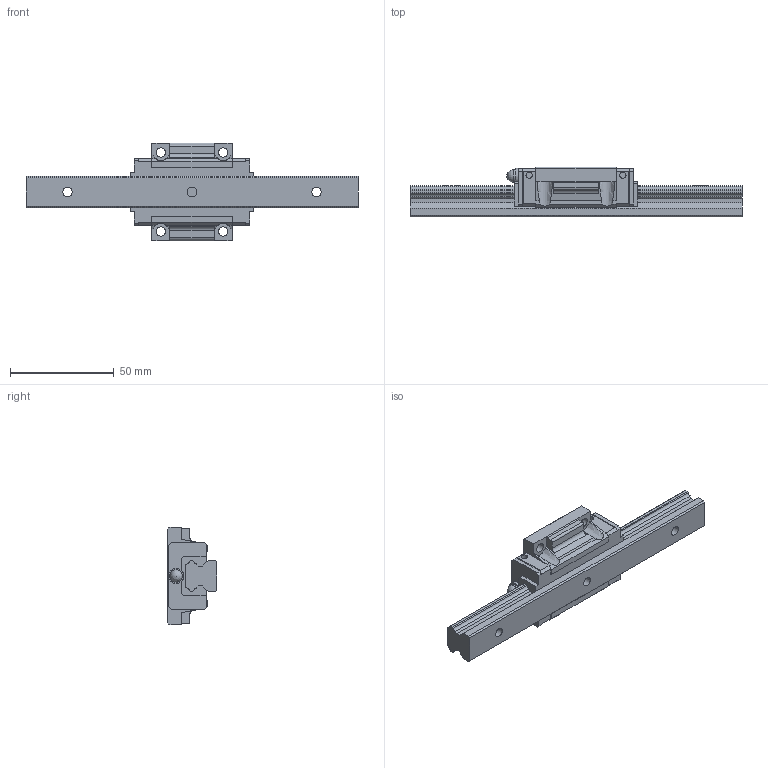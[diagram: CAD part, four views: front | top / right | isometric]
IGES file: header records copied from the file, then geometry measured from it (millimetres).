
Start section: Data from Parasolid IGES Translator 26.0.171, Copyright(c) 2006 Siemens PLM Software. All Rights Reserved.
Global section: file name: HSR15M1B1SS-160L_G20_0_PB1021B_50-2_0_0_0.igs; native system: By Siemens PLM Incorporated; preprocessor: XPlus GENERIC/IGES 26.0.171; author: Noname; organization: Noname; date: 20240523.061410; units: millimetre
Bounding box: 160 x 24 x 47 mm (x, y, z)
Surface area: 21374.2 mm2 (no closed solid volume)
Topology: 0 solids, 0 shells, 190 faces, 1035 edges, 997 vertices
Faces by surface type: extrusion 150, revolution 40
